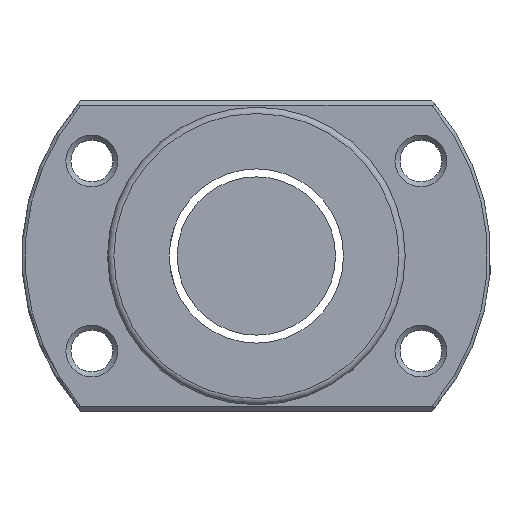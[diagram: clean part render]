
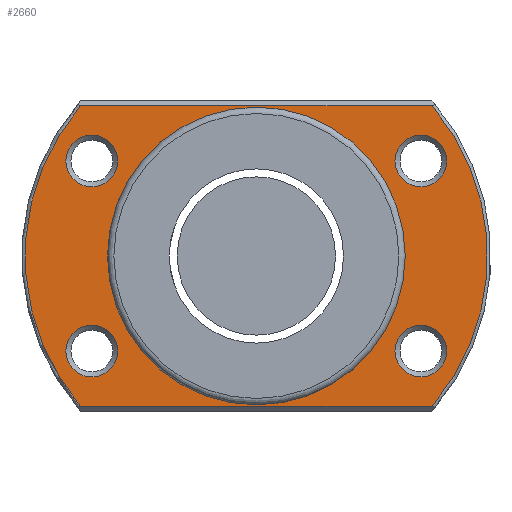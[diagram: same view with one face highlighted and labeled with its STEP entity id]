
A CAD part, left-side view. The second image highlights one B-rep face of the part: STEP entity #2660.
In plain terms, the highlighted planar face has unit normal (-1, 0, 0).
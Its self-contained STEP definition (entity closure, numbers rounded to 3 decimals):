
#137 = ORIENTED_EDGE ( 'NONE', *, *, #1803, .T. ) ;
#196 = VECTOR ( 'NONE', #2535, 1000. ) ;
#198 = LINE ( 'NONE', #2637, #2110 ) ;
#224 = CARTESIAN_POINT ( 'NONE',  ( -93., 0., 0. ) ) ;
#225 = CARTESIAN_POINT ( 'NONE',  ( -93., -27.759, -23.7 ) ) ;
#240 = CIRCLE ( 'NONE', #880, 36.5 ) ;
#286 = DIRECTION ( 'NONE',  ( 0., 0., 1. ) ) ;
#340 = EDGE_LOOP ( 'NONE', ( #395 ) ) ;
#359 = EDGE_CURVE ( 'NONE', #859, #859, #969, .T. ) ;
#371 = VERTEX_POINT ( 'NONE', #721 ) ;
#377 = EDGE_CURVE ( 'NONE', #407, #407, #2401, .T. ) ;
#395 = ORIENTED_EDGE ( 'NONE', *, *, #1468, .T. ) ;
#407 = VERTEX_POINT ( 'NONE', #596 ) ;
#429 = AXIS2_PLACEMENT_3D ( 'NONE', #224, #2809, #1805 ) ;
#451 = VERTEX_POINT ( 'NONE', #962 ) ;
#477 = AXIS2_PLACEMENT_3D ( 'NONE', #2399, #546, #286 ) ;
#546 = DIRECTION ( 'NONE',  ( 1., 0., 0. ) ) ;
#596 = CARTESIAN_POINT ( 'NONE',  ( -93., -25.981, -10.9 ) ) ;
#611 = CARTESIAN_POINT ( 'NONE',  ( -93., 0., 0. ) ) ;
#648 = ORIENTED_EDGE ( 'NONE', *, *, #377, .T. ) ;
#695 = CARTESIAN_POINT ( 'NONE',  ( -93., -25.981, -15. ) ) ;
#721 = CARTESIAN_POINT ( 'NONE',  ( -93., 27.759, 23.7 ) ) ;
#785 = CIRCLE ( 'NONE', #2749, 23.5 ) ;
#808 = VERTEX_POINT ( 'NONE', #1650 ) ;
#815 = CARTESIAN_POINT ( 'NONE',  ( -93., -25.981, 15. ) ) ;
#818 = PLANE ( 'NONE',  #2552 ) ;
#859 = VERTEX_POINT ( 'NONE', #2753 ) ;
#869 = DIRECTION ( 'NONE',  ( 1., 0., 0. ) ) ;
#880 = AXIS2_PLACEMENT_3D ( 'NONE', #611, #2737, #2031 ) ;
#885 = CARTESIAN_POINT ( 'NONE',  ( -93., 0., 0. ) ) ;
#919 = AXIS2_PLACEMENT_3D ( 'NONE', #695, #2111, #1890 ) ;
#962 = CARTESIAN_POINT ( 'NONE',  ( -93., 0., -23.5 ) ) ;
#969 = CIRCLE ( 'NONE', #1306, 4.1 ) ;
#999 = FACE_BOUND ( 'NONE', #2527, .T. ) ;
#1013 = DIRECTION ( 'NONE',  ( 0., 0., 1. ) ) ;
#1057 = VERTEX_POINT ( 'NONE', #1763 ) ;
#1091 = EDGE_CURVE ( 'NONE', #1057, #1057, #2987, .T. ) ;
#1167 = LINE ( 'NONE', #2822, #196 ) ;
#1169 = VERTEX_POINT ( 'NONE', #2812 ) ;
#1306 = AXIS2_PLACEMENT_3D ( 'NONE', #2313, #1845, #2786 ) ;
#1451 = FACE_BOUND ( 'NONE', #2958, .T. ) ;
#1468 = EDGE_CURVE ( 'NONE', #1169, #1169, #1518, .T. ) ;
#1481 = DIRECTION ( 'NONE',  ( 0., 1., 0. ) ) ;
#1516 = DIRECTION ( 'NONE',  ( 1., 0., 0. ) ) ;
#1518 = CIRCLE ( 'NONE', #1565, 4.1 ) ;
#1565 = AXIS2_PLACEMENT_3D ( 'NONE', #815, #1516, #2460 ) ;
#1595 = ORIENTED_EDGE ( 'NONE', *, *, #2223, .T. ) ;
#1598 = EDGE_CURVE ( 'NONE', #451, #451, #785, .T. ) ;
#1650 = CARTESIAN_POINT ( 'NONE',  ( -93., 27.759, -23.7 ) ) ;
#1684 = FACE_BOUND ( 'NONE', #340, .T. ) ;
#1751 = EDGE_LOOP ( 'NONE', ( #2979 ) ) ;
#1763 = CARTESIAN_POINT ( 'NONE',  ( -93., 25.981, 19.1 ) ) ;
#1796 = ORIENTED_EDGE ( 'NONE', *, *, #1091, .T. ) ;
#1803 = EDGE_CURVE ( 'NONE', #2299, #1917, #2011, .T. ) ;
#1805 = DIRECTION ( 'NONE',  ( 0., 0., 1. ) ) ;
#1841 = EDGE_CURVE ( 'NONE', #1917, #371, #198, .T. ) ;
#1845 = DIRECTION ( 'NONE',  ( 1., 0., 0. ) ) ;
#1890 = DIRECTION ( 'NONE',  ( 0., 0., 1. ) ) ;
#1917 = VERTEX_POINT ( 'NONE', #2683 ) ;
#2011 = CIRCLE ( 'NONE', #429, 36.5 ) ;
#2031 = DIRECTION ( 'NONE',  ( 0., 0., 1. ) ) ;
#2034 = ORIENTED_EDGE ( 'NONE', *, *, #1841, .T. ) ;
#2058 = EDGE_CURVE ( 'NONE', #371, #808, #240, .T. ) ;
#2089 = DIRECTION ( 'NONE',  ( 0., 0., -1. ) ) ;
#2110 = VECTOR ( 'NONE', #1481, 1000. ) ;
#2111 = DIRECTION ( 'NONE',  ( 1., 0., 0. ) ) ;
#2201 = FACE_OUTER_BOUND ( 'NONE', #2911, .T. ) ;
#2217 = FACE_BOUND ( 'NONE', #2279, .T. ) ;
#2223 = EDGE_CURVE ( 'NONE', #808, #2299, #1167, .T. ) ;
#2226 = ORIENTED_EDGE ( 'NONE', *, *, #2058, .T. ) ;
#2279 = EDGE_LOOP ( 'NONE', ( #648 ) ) ;
#2299 = VERTEX_POINT ( 'NONE', #225 ) ;
#2313 = CARTESIAN_POINT ( 'NONE',  ( -93., 25.981, -15. ) ) ;
#2399 = CARTESIAN_POINT ( 'NONE',  ( -93., 25.981, 15. ) ) ;
#2401 = CIRCLE ( 'NONE', #919, 4.1 ) ;
#2402 = DIRECTION ( 'NONE',  ( -1., 0., 0. ) ) ;
#2460 = DIRECTION ( 'NONE',  ( 0., 0., 1. ) ) ;
#2464 = CARTESIAN_POINT ( 'NONE',  ( -93., 37., 0. ) ) ;
#2527 = EDGE_LOOP ( 'NONE', ( #2870 ) ) ;
#2535 = DIRECTION ( 'NONE',  ( 0., -1., 0. ) ) ;
#2552 = AXIS2_PLACEMENT_3D ( 'NONE', #2464, #2402, #1013 ) ;
#2630 = FACE_BOUND ( 'NONE', #1751, .T. ) ;
#2637 = CARTESIAN_POINT ( 'NONE',  ( -93., 37., 23.7 ) ) ;
#2660 = ADVANCED_FACE ( 'NONE', ( #2630, #2217, #1684, #1451, #999, #2201 ), #818, .T. ) ;
#2683 = CARTESIAN_POINT ( 'NONE',  ( -93., -27.759, 23.7 ) ) ;
#2737 = DIRECTION ( 'NONE',  ( -1., 0., 0. ) ) ;
#2749 = AXIS2_PLACEMENT_3D ( 'NONE', #885, #869, #2089 ) ;
#2753 = CARTESIAN_POINT ( 'NONE',  ( -93., 25.981, -10.9 ) ) ;
#2786 = DIRECTION ( 'NONE',  ( 0., 0., 1. ) ) ;
#2809 = DIRECTION ( 'NONE',  ( -1., 0., 0. ) ) ;
#2812 = CARTESIAN_POINT ( 'NONE',  ( -93., -25.981, 19.1 ) ) ;
#2822 = CARTESIAN_POINT ( 'NONE',  ( -93., 37., -23.7 ) ) ;
#2870 = ORIENTED_EDGE ( 'NONE', *, *, #1598, .T. ) ;
#2911 = EDGE_LOOP ( 'NONE', ( #1595, #137, #2034, #2226 ) ) ;
#2958 = EDGE_LOOP ( 'NONE', ( #1796 ) ) ;
#2979 = ORIENTED_EDGE ( 'NONE', *, *, #359, .T. ) ;
#2987 = CIRCLE ( 'NONE', #477, 4.1 ) ;
